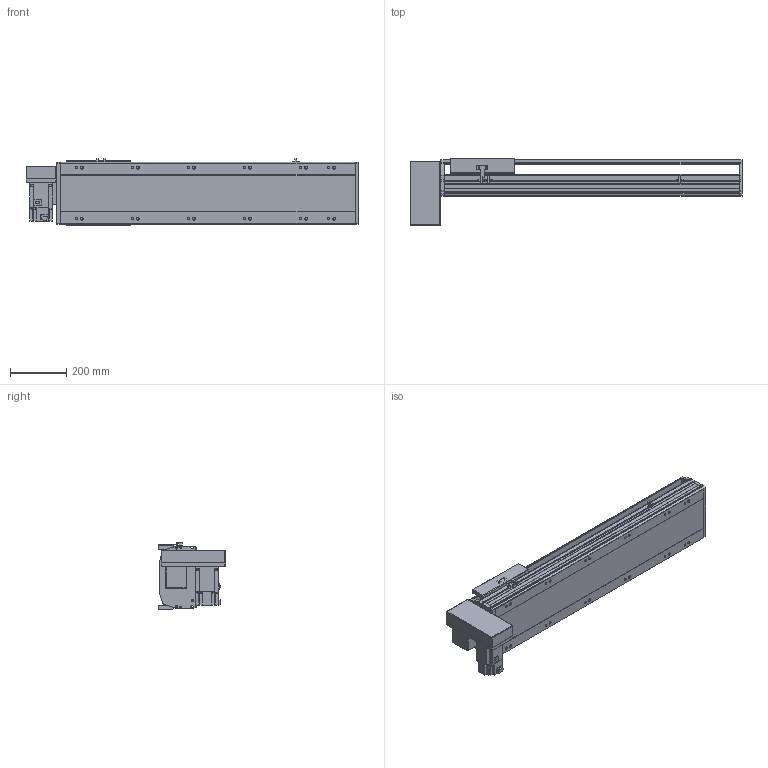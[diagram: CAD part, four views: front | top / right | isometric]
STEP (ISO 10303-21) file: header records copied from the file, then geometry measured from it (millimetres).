
FILE_DESCRIPTION(/* description */ ('STEP AP214'),/* implementation_level */ '2;1');
FILE_NAME(/* name */ 'PBS220-P40-S700-RD-T75-C1-N(0)',/* time_stamp */ '2022-06-13T02:41:19+02:00',/* author */ ('License CC BY-ND 4.0'),/* organization */ ('CADENAS'),/* preprocessor_version */ 'ST-DEVELOPER v18.102',/* originating_system */ 'PARTsolutions',/* authorisation */ ' ');
FILE_SCHEMA (('AUTOMOTIVE_DESIGN {1 0 10303 214 3 1 1}'));
Length unit declared in the file: millimetre
Products named in the file (7): PBS220-P40-S700-RD-T75-C1-N(0); PBS220_sensor; PBS220_plant; PBS220_sliser; T75-p1; PBS220T-RD_motors; PBS220-S700()_body
Assembly tree (8 placements, depth 2):
  PBS220-P40-S700-RD-T75-C1-N(0)
    PBS220_sensor  x3
    PBS220_plant
    PBS220_sliser
    T75-p1
    PBS220T-RD_motors
    PBS220-S700()_body
Bounding box: 1184 x 239 x 238.5 mm (x, y, z)
Volume: 17415589.1 mm3; surface area: 1756976.7 mm2
Topology: 8 solids, 8 shells, 890 faces, 2340 edges, 1522 vertices
Faces by surface type: plane 590, cylinder 264, cone 36
Full cylindrical faces by diameter (mm): 2.013 x4, 4.5 x14, 4.917 x4, 6 x7, 6.647 x8, 8 x10, 8.376 x12, 8.5 x12, 10 x6, 14 x12, 38 x2, 40 x1, 70 x1
Entity records: 25005 total; most frequent: CARTESIAN_POINT 4360, DIRECTION 4347, ORIENTED_EDGE 4034, EDGE_CURVE 2017, AXIS2_PLACEMENT_3D 1503, VERTEX_POINT 1384, LINE 1341, VECTOR 1341
